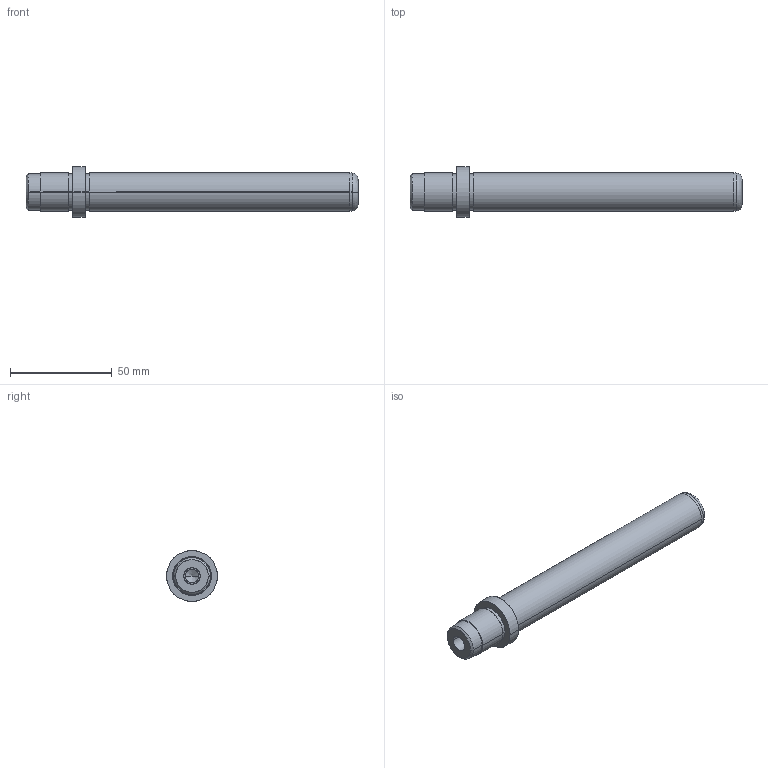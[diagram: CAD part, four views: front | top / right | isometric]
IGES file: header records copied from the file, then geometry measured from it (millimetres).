
Start section: SolidWorks IGES FILE using analytic representation for surfaces
Global section: file name: D:\zzzzz\Delta\D06\19\D06 - 19x140x23.IGS; native system: SolidWorks 2004 by SolidWorks Corporation; preprocessor: Version 5.3; author: Hkn; date: 080327.150207; units: millimetre
Bounding box: 163 x 25 x 25 mm (x, y, z)
Surface area: 11970.4 mm2 (no closed solid volume)
Topology: 0 solids, 0 shells, 39 faces, 696 edges, 692 vertices
Faces by surface type: revolution 28, bspline 11
